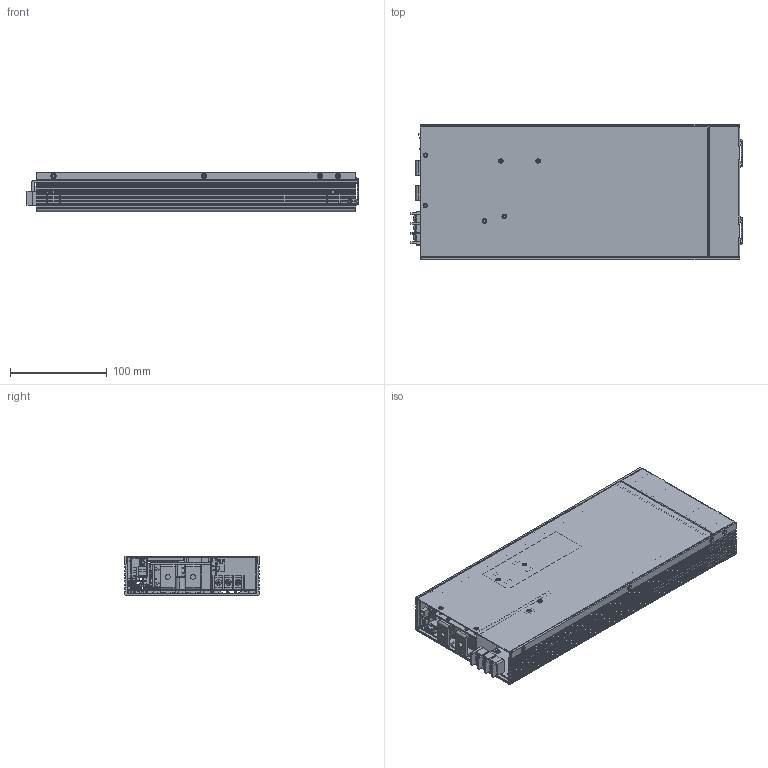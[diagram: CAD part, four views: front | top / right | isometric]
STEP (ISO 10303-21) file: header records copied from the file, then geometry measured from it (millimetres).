
FILE_DESCRIPTION((''),'2;1');
FILE_NAME('BIC-2200_ASM_ASM','2026-09-15T',('Vincent.Kao'),(''),'CREO PARAMETRIC BY PTC INC, 2016260','CREO PARAMETRIC BY PTC INC, 2016260','');
FILE_SCHEMA(('AUTOMOTIVE_DESIGN { 1 0 10303 214 1 1 1 1 }'));
Products named in the file (101): EXTRUDED-342726_PRT_2; 1FF1-DH2L-04_ASM_ASM_2_ASM; EXTRUDED-343743_PRT_2; 1FF1-DH2L-04_2931611402_ASM_ASM_ASM; EXTRUDED-344463_PRT_2; 1FF1-DH2L-04_2786087784_ASM_ASM_ASM; EXTRUDED-345248_PRT_2; 1187651048_ASM_ASM_2_ASM; EXTRUDED-346727_PRT_2; 1187647920_ASM_ASM_2_ASM; CN80_ASM_ASM_2_ASM; MOSTO3P_1_2_2; MOS_ASM_2_ASM; FFF_1_2; FAN-ALL_1_1_ASM_2_ASM; FAN-ALL_1_ASM_2_ASM; A2_ASM_2_ASM; A2_1_ASM_2_ASM; FAN_COVER_2; TOP_COVER_2; BOTTOM_COVER_2; YS032_1_1_2; YS047W-31840_2; EMI_2; P1_2_12_2; PIN_1_2_11_2; HS4_ASM_ASM_2_ASM; FIX_2; MYLAR-2_2; MYLAR-6_2; M3-7L_1_2; CASE_ASM_2_ASM; PCB-A_BOARD_2; PCB-A_LAYOUT_0204_2; PCB-F_BOARD_2; PCB-E_BOARD_2; TO220_2; PCB_SCREW_0615_2; PCB-TR_1102_2; PCB_A_1102_2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
Assembly tree (150 placements, depth 6):
  BIC-2200_ASM_ASM
    BIC-2200_ASM_2_ASM
      A2_1_ASM_2_ASM
        CN80_ASM_ASM_2_ASM
          1FF1-DH2L-04_ASM_ASM_2_ASM
            EXTRUDED-342726_PRT_2
          1FF1-DH2L-04_2931611402_ASM_ASM_ASM  x5
            EXTRUDED-343743_PRT_2
          1FF1-DH2L-04_2786087784_ASM_ASM_ASM  x5
            EXTRUDED-344463_PRT_2
          1187651048_ASM_ASM_2_ASM
            EXTRUDED-345248_PRT_2
          1187647920_ASM_ASM_2_ASM
            EXTRUDED-346727_PRT_2
          EXTRUDED-342726_PRT_2
        MOS_ASM_2_ASM
          MOSTO3P_1_2_2  x4
        A2_ASM_2_ASM
          FAN-ALL_1_1_ASM_2_ASM
            FFF_1_2
          FAN-ALL_1_ASM_2_ASM
            FFF_1_2
      CASE_ASM_2_ASM
        FAN_COVER_2
        TOP_COVER_2
        BOTTOM_COVER_2
        YS032_1_1_2  x2
        YS047W-31840_2
        EMI_2
        HS4_ASM_ASM_2_ASM
          P1_2_12_2
          PIN_1_2_11_2
        FIX_2  x2
        MYLAR-2_2
        MYLAR-6_2
        M3-7L_1_2  x9
      PCB-A_BOARD_2
      PCB-A_LAYOUT_0204_2
      PCB-F_BOARD_2
      PCB-E_BOARD_2
      TO220_2  x4
      PCB_SCREW_0615_2
      PCB-TR_1102_2
      PCB_A_1102_2
      PCB_A_1105_2
      PCB_A_1110_2
      PCB-A_BOTTOM_LAYOUT_2
      TR_ASM_2_ASM
        COPPER_RING_ASM_2_ASM
          A1_2_ASM_22_ASM_2_ASM  x8
            EEE_22_2
            EEE_1_22_2
            EEE_1_1_22_2
          55_22_2  x2
        CU_ASM_ASM_2_ASM
          P3_22_2  x2
          P2_22_2  x4
          CU-2_1103_2  x2
        PAD-1_2  x2
        PCB_BOARD_1_2
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Bounding box: 343.13 x 140 x 41 mm (x, y, z)
Volume: 561806.1 mm3; surface area: 844505 mm2
Topology: 149 solids, 149 shells, 4334 faces, 11930 edges, 7965 vertices
Faces by surface type: plane 2600, cylinder 1501, cone 88, torus 74, extrusion 57, bspline 8, sphere 6
Entity records: 123460 total; most frequent: CARTESIAN_POINT 22783, DIRECTION 16417, ORIENTED_EDGE 16298, EDGE_CURVE 8149, AXIS2_PLACEMENT_3D 5513, VERTEX_POINT 5431, VECTOR 5391, LINE 5334
